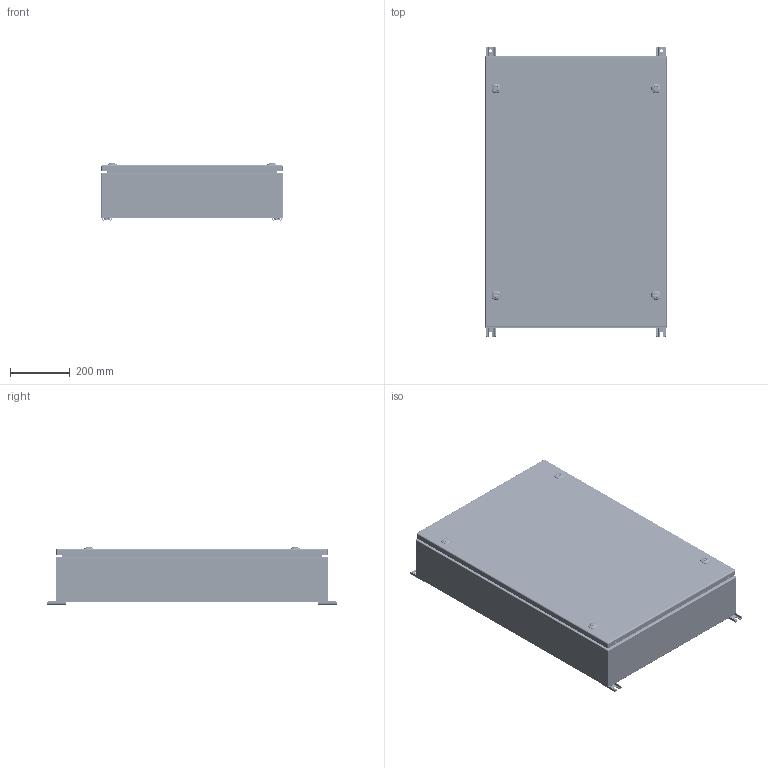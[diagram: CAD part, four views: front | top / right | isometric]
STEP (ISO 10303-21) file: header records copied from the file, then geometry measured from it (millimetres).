
FILE_DESCRIPTION(/* description */ ('5412ESQT 36" x 24" x 6" Assembly'),/* implementation_level */ '2;1');
FILE_NAME(/* name */ 'C:\Vault_Workspace\Inventor_Dwg\BoxCad\Result\5412ESQT362406TH\e-mail\3D\5412ESQT362406TH.stp',/* time_stamp */ '2023-07-14T18:15:50-04:00',/* author */ ('BoxCad'),/* organization */ (''),/* preprocessor_version */ 'ST-DEVELOPER v18.1',/* originating_system */ 'Autodesk Inventor 2020',/* authorisation */ '');
FILE_SCHEMA (('AUTOMOTIVE_DESIGN { 1 0 10303 214 3 1 1 }'));
Products named in the file (50): 5412ESQT362406TH; 5412ESQT362406THB; 5412ESQT362406THB-P; STK-Q-16005; 5412ESQT362406THI-B; 5412ESQT362406THI-TP; 5412ESQT362406THI-BT; 5412ESQT362406THI-LS; 5412ESQT362406THI-RS; 5412ESQT362406THBR; STK-A-70554; STK-Q-05021; STK-Q-07270; STK-A-70554TH-1; STK-Q-70554; 885ESMF3-Feet-A; 885ESMF3-Feet; STK-Q-06660; RIVET_NUT_M10_FH_CE; STK-K-885ESMF3; 5412ESQT362406THC; 5412ESQT362406THC-P; 5412ESQT362406THG; STK-Q-46515-1; STK-Q-46515-2; STK-Q-46515-3; STK-Q-16055; STK-Q-46515-4; STK-Q-46515-B; STK-Q-46515-A; STK-P-02400S; 5412ESQT362406THI-C; STK-Q-46020-36; STK-Q-07250; STK-S-00100; STK-K-12500-1; STK-K-12500-2; STK-K-12500-3; STK-K-12500-4; STK-Q-78111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
Assembly tree (115 placements, depth 5):
  5412ESQT362406TH
    5412ESQT362406THB
      5412ESQT362406THB-P
      STK-Q-16005  x6
      STK-P-02400S
      STK-Q-16055  x4
      5412ESQT362406THI-B
      5412ESQT362406THI-TP
      5412ESQT362406THI-BT
      5412ESQT362406THI-LS
      5412ESQT362406THI-RS
      5412ESQT362406THBR
        STK-A-70554
          STK-Q-70554
          STK-Q-05021
          STK-Q-07270
        STK-A-70554TH-1  x3
          STK-Q-70554
          STK-Q-07250
      885ESMF3-Feet-A  x2
      STK-Q-06660  x4
      RIVET_NUT_M10_FH_CE  x4
      885ESMF3-Feet  x2
      STK-K-885ESMF3
    5412ESQT362406THC
      5412ESQT362406THC-P
      5412ESQT362406THG
      STK-Q-16055  x8
      STK-Q-46515-1
        STK-Q-46515-B
        STK-Q-46515-A
      STK-Q-46515-2
        STK-Q-46515-B
        STK-Q-46515-A
      STK-Q-46515-3
        STK-Q-46515-B
        STK-Q-46515-A
      STK-Q-46515-4
        STK-Q-46515-B
        STK-Q-46515-A
      STK-P-02400S
      5412ESQT362406THI-C
      STK-Q-46020-36  x2
      STK-Q-07250  x4
      STK-S-00100  x2
      STK-K-12500-1
        STK-Q-78111
        STK-Q-78120
        STK-Q-78145
        STK-Q-03200
        STK-Q-78141
        STK-Q-90390
        STK-Q-78160
      STK-K-12500-2
        STK-Q-78111
        STK-Q-78120
        STK-Q-78145
        STK-Q-03200
        STK-Q-78141
        STK-Q-90390
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Bounding box: 609.6 x 971.55 x 192.03 mm (x, y, z)
Volume: 31194886 mm3; surface area: 8066122 mm2
Topology: 99 solids, 99 shells, 19100 faces, 51655 edges, 33105 vertices
Faces by surface type: bspline 6578, plane 6116, cylinder 4991, torus 840, cone 366, sphere 209
Full cylindrical faces by diameter (mm): 0.75 x18, 0.762 x18, 4.191 x64, 4.5 x12, 5.1 x152, 5.105 x52, 5.9 x32, 6.015 x64, 6.496 x8, 6.65 x6, 6.8 x90, 7.35 x8, 7.366 x4, 7.468 x8, 7.9 x10, 8 x4, 8.5 x4, 9.5 x1, 9.6 x4, 9.654 x4, 9.7 x36, 10 x4, 10.312 x6, 11.9 x54, 12.7 x16, 12.8 x4, 13 x4, 15.9 x4, 16 x4, 19 x4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
Entity records: 189684 total; most frequent: CARTESIAN_POINT 78270, ORIENTED_EDGE 25122, DIRECTION 19032, EDGE_CURVE 12561, VERTEX_POINT 8055, AXIS2_PLACEMENT_3D 6564, LINE 5904, VECTOR 5904
